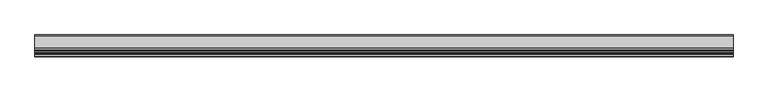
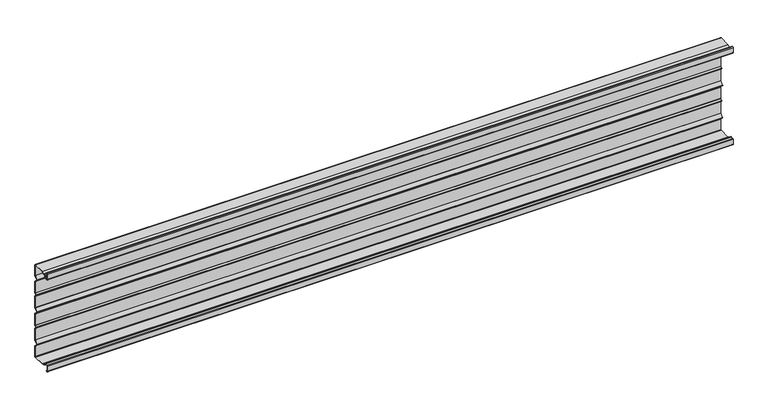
"""IFC4 building model written with IfcOpenShell, lengths in millimetres: plate geometry, HIANSA - H20.F09.007-CHAPA PERFILADA FACHADA HORIZONTAL - BANDEJA 130.600 - Panel de Muro Cortina : -."""

from ifc_helpers import new_model, si_unit, point, frame, frame_2d, origin, place, context, project, spatial, polyline, circle_curve, trimmed, segment, composite_curve, outline, extrude, source, transform, mapped, element, save


def plate_02a1e95c(model_context):
    return source(origin(), model_context, "Body", "SweptSolid", [
        extrude(outline(composite_curve([segment(trimmed(circle_curve(frame_2d((-127.2, 581.4957928)), 3.8), [point((-127.2, 577.6957928))], [point((-131.0, 581.4957928))], False, "CARTESIAN"), True, "CONTINUOUS"), segment(polyline([(-131.0, 581.4957928), (-131.0, 613.8462418)]), True, "CONTINUOUS"), segment(trimmed(circle_curve(frame_2d((-127.2, 613.8462418)), 3.8), [point((-131.0, 613.8462418))], [point((-127.2, 617.6462418))], False, "CARTESIAN"), True, "CONTINUOUS"), segment(polyline([(-127.2, 617.6462418), (-120.6028106, 617.6462418), (-120.6028106, 616.6462418), (-127.2, 616.6462418)]), True, "CONTINUOUS"), segment(trimmed(circle_curve(frame_2d((-127.2, 613.8462418)), 2.8), [point((-127.2, 616.6462418))], [point((-130.0, 613.8462418))], True, "CARTESIAN"), True, "CONTINUOUS"), segment(polyline([(-130.0, 613.8462418), (-130.0, 581.4957928)]), True, "CONTINUOUS"), segment(trimmed(circle_curve(frame_2d((-127.2, 581.4957928)), 2.8), [point((-130.0, 581.4957928))], [point((-127.2, 578.6957928))], True, "CARTESIAN"), True, "CONTINUOUS"), segment(polyline([(-127.2, 578.6957928), (-113.8299892, 578.6957928), (-111.7315524, 578.7100756), (-110.1843731, 579.0674137), (-109.0433326, 579.6974759), (-106.8935432, 581.6835432), (-105.5433173, 583.8042996), (-104.0832351, 587.3224219), (-103.519064, 589.0988572), (-103.1910564, 590.3244349), (-95.12384, 594.4326294), (-89.7150105, 592.7903866), (-76.198023, 600.4000001), (-4.2, 600.4000001)]), True, "CONTINUOUS"), segment(trimmed(circle_curve(frame_2d((-4.2, 596.2000001)), 4.2), [point((-4.2, 600.4000001))], [point((0.0, 596.2000001))], False, "CARTESIAN"), True, "CONTINUOUS"), segment(polyline([(0.0, 596.2000001), (0.0, 529.8291168)]), True, "CONTINUOUS"), segment(trimmed(circle_curve(frame_2d((-2.2, 529.8291168)), 2.2), [point((0.0, 529.8291168))], [point((-0.597336, 528.3219777))], False, "CARTESIAN"), True, "CONTINUOUS"), segment(polyline([(-0.597336, 528.3219777), (-17.0664263, 510.80905)]), True, "CONTINUOUS"), segment(trimmed(circle_curve(frame_2d((-15.7551558, 509.5759362)), 1.8), [point((-17.0664263, 510.80905))], [point((-17.0664263, 508.3428224))], True, "CARTESIAN"), True, "CONTINUOUS"), segment(polyline([(-17.0664263, 508.3428224), (-0.597336, 490.8298947)]), True, "CONTINUOUS"), segment(trimmed(circle_curve(frame_2d((-2.2, 489.3227556)), 2.2), [point((-0.597336, 490.8298947))], [point((0.0, 489.3227556))], False, "CARTESIAN"), True, "CONTINUOUS"), segment(polyline([(0.0, 489.3227556), (0.0, 415.6373977)]), True, "CONTINUOUS"), segment(trimmed(circle_curve(frame_2d((-2.2, 415.6373977)), 2.2), [point((0.0, 415.6373977))], [point((-0.6213499, 414.1051235))], False, "CARTESIAN"), True, "CONTINUOUS"), segment(polyline([(-0.6213499, 414.1051235), (-8.298262, 406.1958614)]), True, "CONTINUOUS"), segment(trimmed(circle_curve(frame_2d((-7.0066392, 404.9421826)), 1.8), [point((-8.298262, 406.1958614))], [point((-8.298262, 403.6885037))], True, "CARTESIAN"), True, "CONTINUOUS"), segment(polyline([(-8.298262, 403.6885037), (-0.6213499, 395.7792416)]), True, "CONTINUOUS"), segment(trimmed(circle_curve(frame_2d((-2.2, 394.2469674)), 2.2), [point((-0.6213499, 395.7792416))], [point((0.0, 394.2469674))], False, "CARTESIAN"), True, "CONTINUOUS"), segment(polyline([(0.0, 394.2469674), (0.0, 320.5182435)]), True, "CONTINUOUS"), segment(trimmed(circle_curve(frame_2d((-2.2, 320.5182435)), 2.2), [point((0.0, 320.5182435))], [point((-0.6050263, 319.0029684))], False, "CARTESIAN"), True, "CONTINUOUS"), segment(polyline([(-0.6050263, 319.0029684), (-17.2906156, 301.4397706)]), True, "CONTINUOUS"), segment(trimmed(circle_curve(frame_2d((-15.9856371, 300.2)), 1.8), [point((-17.2906156, 301.4397706))], [point((-17.2906156, 298.9602295))], True, "CARTESIAN"), True, "CONTINUOUS"), segment(polyline([(-17.2906156, 298.9602295), (-0.6050262, 281.3970316)]), True, "CONTINUOUS"), segment(trimmed(circle_curve(frame_2d((-2.2, 279.8817565)), 2.2), [point((-0.6050262, 281.3970316))], [point((0.0, 279.8817565))], False, "CARTESIAN"), True, "CONTINUOUS"), segment(polyline([(0.0, 279.8817565), (0.0, 206.1530326)]), True, "CONTINUOUS"), segment(trimmed(circle_curve(frame_2d((-2.2, 206.1530326)), 2.2), [point((0.0, 206.1530326))], [point((-0.6213499, 204.6207585))], False, "CARTESIAN"), True, "CONTINUOUS"), segment(polyline([(-0.6213499, 204.6207585), (-8.298262, 196.7114963)]), True, "CONTINUOUS"), segment(trimmed(circle_curve(frame_2d((-7.0066392, 195.4578175)), 1.8), [point((-8.298262, 196.7114963))], [point((-8.298262, 194.2041387))], True, "CARTESIAN"), True, "CONTINUOUS"), segment(polyline([(-8.298262, 194.2041387), (-0.6213499, 186.2948765)]), True, "CONTINUOUS"), segment(trimmed(circle_curve(frame_2d((-2.2, 184.7626024)), 2.2), [point((-0.6213499, 186.2948765))], [point((0.0, 184.7626024))], False, "CARTESIAN"), True, "CONTINUOUS"), segment(polyline([(0.0, 184.7626024), (0.0, 111.0772444)]), True, "CONTINUOUS"), segment(trimmed(circle_curve(frame_2d((-2.2, 111.0772444)), 2.2), [point((0.0, 111.0772444))], [point((-0.597336, 109.5701054))], False, "CARTESIAN"), True, "CONTINUOUS"), segment(polyline([(-0.597336, 109.5701054), (-17.0664263, 92.0571777)]), True, "CONTINUOUS"), segment(trimmed(circle_curve(frame_2d((-15.7551558, 90.8240639)), 1.8), [point((-17.0664263, 92.0571777))], [point((-17.0664263, 89.5909501))], True, "CARTESIAN"), True, "CONTINUOUS"), segment(polyline([(-17.0664263, 89.5909501), (-0.597336, 72.0780224)]), True, "CONTINUOUS"), segment(trimmed(circle_curve(frame_2d((-2.2, 70.5708833)), 2.2), [point((-0.597336, 72.0780224))], [point((0.0, 70.5708833))], False, "CARTESIAN"), True, "CONTINUOUS"), segment(polyline([(0.0, 70.5708833), (0.0, 4.2)]), True, "CONTINUOUS"), segment(trimmed(circle_curve(frame_2d((-4.2, 4.2)), 4.2), [point((0.0, 4.2))], [point((-4.2, 0.0))], False, "CARTESIAN"), True, "CONTINUOUS"), segment(polyline([(-4.2, 0.0), (-76.198023, 0.0), (-89.7150105, 7.6096135), (-95.12384, 5.9673707), (-103.1910564, 10.0755652), (-103.519064, 11.3011429), (-104.0832351, 13.0775782), (-105.5433173, 16.5957005), (-106.8935432, 18.7164568), (-109.0433326, 20.7025242), (-110.1843731, 21.3325863), (-111.7315524, 21.6899245), (-113.8299892, 21.7042072), (-127.2, 21.7042072)]), True, "CONTINUOUS"), segment(trimmed(circle_curve(frame_2d((-127.2, 18.9042072)), 2.8), [point((-127.2, 21.7042072))], [point((-130.0, 18.9042072))], True, "CARTESIAN"), True, "CONTINUOUS"), segment(polyline([(-130.0, 18.9042072), (-130.0, -14.5998771)]), True, "CONTINUOUS"), segment(trimmed(circle_curve(frame_2d((-127.2, -14.5998771)), 2.8), [point((-130.0, -14.5998771))], [point((-127.2, -17.3998771))], True, "CARTESIAN"), True, "CONTINUOUS"), segment(polyline([(-127.2, -17.3998771), (-120.6028106, -17.3998771), (-120.6028106, -18.3998771), (-127.2, -18.3998771)]), True, "CONTINUOUS"), segment(trimmed(circle_curve(frame_2d((-127.2, -14.5998771)), 3.8), [point((-127.2, -18.3998771))], [point((-131.0, -14.5998771))], False, "CARTESIAN"), True, "CONTINUOUS"), segment(polyline([(-131.0, -14.5998771), (-131.0, 18.9042072)]), True, "CONTINUOUS"), segment(trimmed(circle_curve(frame_2d((-127.2, 18.9042072)), 3.8), [point((-131.0, 18.9042072))], [point((-127.2, 22.7042072))], False, "CARTESIAN"), True, "CONTINUOUS"), segment(polyline([(-127.2, 22.7042072), (-113.826586, 22.7042072), (-111.6142146, 22.689149), (-109.8232529, 22.2755066), (-108.4538074, 21.5193234), (-106.1196712, 19.3629486), (-104.6530492, 17.0593725), (-103.1431498, 13.4212139), (-102.2915341, 10.7396866), (-95.0289638, 7.0412546), (-89.5967319, 8.6906029), (-75.9358826, 1.0), (-4.2, 1.0)]), True, "CONTINUOUS"), segment(trimmed(circle_curve(frame_2d((-4.2, 4.2)), 3.2), [point((-4.2, 1.0))], [point((-1.0, 4.2))], True, "CARTESIAN"), True, "CONTINUOUS"), segment(polyline([(-1.0, 4.2), (-1.0, 70.5708833)]), True, "CONTINUOUS"), segment(trimmed(circle_curve(frame_2d((-2.2, 70.5708833)), 1.2), [point((-1.0, 70.5708833))], [point((-1.3258197, 71.3929592))], True, "CARTESIAN"), True, "CONTINUOUS"), segment(polyline([(-1.3258197, 71.3929592), (-17.7949099, 88.9058869)]), True, "CONTINUOUS"), segment(trimmed(circle_curve(frame_2d((-15.7551558, 90.8240639)), 2.8), [point((-17.7949099, 88.9058869))], [point((-17.7949099, 92.7422409))], False, "CARTESIAN"), True, "CONTINUOUS"), segment(polyline([(-17.7949099, 92.7422409), (-1.3258197, 110.2551686)]), True, "CONTINUOUS"), segment(trimmed(circle_curve(frame_2d((-2.2, 111.0772444)), 1.2), [point((-1.3258197, 110.2551686))], [point((-1.0, 111.0772444))], True, "CARTESIAN"), True, "CONTINUOUS"), segment(polyline([(-1.0, 111.0772444), (-1.0, 184.7626024)]), True, "CONTINUOUS"), segment(trimmed(circle_curve(frame_2d((-2.2, 184.7626024)), 1.2), [point((-1.0, 184.7626024))], [point((-1.3389181, 185.5983883))], True, "CARTESIAN"), True, "CONTINUOUS"), segment(polyline([(-1.3389181, 185.5983883), (-9.0158302, 193.5076504)]), True, "CONTINUOUS"), segment(trimmed(circle_curve(frame_2d((-7.0066392, 195.4578175)), 2.8), [point((-9.0158302, 193.5076504))], [point((-9.0158302, 197.4079846))], False, "CARTESIAN"), True, "CONTINUOUS"), segment(polyline([(-9.0158302, 197.4079846), (-1.3389181, 205.3172467)]), True, "CONTINUOUS"), segment(trimmed(circle_curve(frame_2d((-2.2, 206.1530326)), 1.2), [point((-1.3389181, 205.3172467))], [point((-1.0, 206.1530326))], True, "CARTESIAN"), True, "CONTINUOUS"), segment(polyline([(-1.0, 206.1530326), (-1.0, 279.8817565)]), True, "CONTINUOUS"), segment(trimmed(circle_curve(frame_2d((-2.2, 279.8817565)), 1.2), [point((-1.0, 279.8817565))], [point((-1.3300143, 280.7082702))], True, "CARTESIAN"), True, "CONTINUOUS"), segment(polyline([(-1.3300143, 280.7082702), (-18.0156037, 298.271468)]), True, "CONTINUOUS"), segment(trimmed(circle_curve(frame_2d((-15.9856371, 300.2)), 2.8), [point((-18.0156037, 298.271468))], [point((-18.0156037, 302.128532))], False, "CARTESIAN"), True, "CONTINUOUS"), segment(polyline([(-18.0156037, 302.128532), (-1.3300143, 319.6917298)]), True, "CONTINUOUS"), segment(trimmed(circle_curve(frame_2d((-2.2, 320.5182435)), 1.2), [point((-1.3300143, 319.6917298))], [point((-1.0, 320.5182435))], True, "CARTESIAN"), True, "CONTINUOUS"), segment(polyline([(-1.0, 320.5182435), (-1.0, 394.2469674)]), True, "CONTINUOUS"), segment(trimmed(circle_curve(frame_2d((-2.2, 394.2469674)), 1.2), [point((-1.0, 394.2469674))], [point((-1.3389181, 395.0827533))], True, "CARTESIAN"), True, "CONTINUOUS"), segment(polyline([(-1.3389181, 395.0827533), (-9.0158302, 402.9920155)]), True, "CONTINUOUS"), segment(trimmed(circle_curve(frame_2d((-7.0066392, 404.9421826)), 2.8), [point((-9.0158302, 402.9920155))], [point((-9.0158302, 406.8923496))], False, "CARTESIAN"), True, "CONTINUOUS"), segment(polyline([(-9.0158302, 406.8923496), (-1.3389181, 414.8016118)]), True, "CONTINUOUS"), segment(trimmed(circle_curve(frame_2d((-2.2, 415.6373977)), 1.2), [point((-1.3389181, 414.8016118))], [point((-1.0, 415.6373977))], True, "CARTESIAN"), True, "CONTINUOUS"), segment(polyline([(-1.0, 415.6373977), (-1.0, 489.3227556)]), True, "CONTINUOUS"), segment(trimmed(circle_curve(frame_2d((-2.2, 489.3227556)), 1.2), [point((-1.0, 489.3227556))], [point((-1.3258197, 490.1448315))], True, "CARTESIAN"), True, "CONTINUOUS"), segment(polyline([(-1.3258197, 490.1448315), (-17.7949099, 507.6577592)]), True, "CONTINUOUS"), segment(trimmed(circle_curve(frame_2d((-15.7551558, 509.5759362)), 2.8), [point((-17.7949099, 507.6577592))], [point((-17.7949099, 511.4941132))], False, "CARTESIAN"), True, "CONTINUOUS"), segment(polyline([(-17.7949099, 511.4941132), (-1.3258197, 529.0070409)]), True, "CONTINUOUS"), segment(trimmed(circle_curve(frame_2d((-2.2, 529.8291168)), 1.2), [point((-1.3258197, 529.0070409))], [point((-1.0, 529.8291168))], True, "CARTESIAN"), True, "CONTINUOUS"), segment(polyline([(-1.0, 529.8291168), (-1.0, 596.2000001)]), True, "CONTINUOUS"), segment(trimmed(circle_curve(frame_2d((-4.2, 596.2000001)), 3.2), [point((-1.0, 596.2000001))], [point((-4.2, 599.4000001))], True, "CARTESIAN"), True, "CONTINUOUS"), segment(polyline([(-4.2, 599.4000001), (-75.9358826, 599.4000001), (-89.5967319, 591.7093972), (-95.0289638, 593.3587454), (-102.2915341, 589.6603135), (-103.1431498, 586.9787862), (-104.6530492, 583.3406276), (-106.1196712, 581.0370515), (-108.4538074, 578.8806767), (-109.8232529, 578.1244934), (-111.6142146, 577.7108511), (-113.826586, 577.6957928), (-127.2, 577.6957928)]), True, "CONTINUOUS")], self_intersect=False)), frame((-2103.5, 0.0, 0.0), z_axis=(1.0, 0.0, 0.0), x_axis=(0.0, 1.0, 0.0)), (0.0, 0.0, 1.0), 4207.0),
    ])


if __name__ == "__main__":
    model = new_model("IFC4")
    model_context = context("Model", 3, world=origin())
    ifc_project = project(units=[si_unit("LENGTHUNIT", "METRE", prefix="MILLI")], contexts=[model_context])
    site = spatial("IfcSite", under=ifc_project)
    building = spatial("IfcBuilding", under=site)
    placement = place(None, origin())
    plate_shape = plate_02a1e95c(model_context)
    element("IfcPlate", 1, ObjectType="HIANSA - H20.F09.007-CHAPA PERFILADA FACHADA HORIZONTAL - BANDEJA 130.600 - Panel de Muro Cortina : -", at=placement, inside=building, context=model_context, shape_type="MappedRepresentation", body=[
        mapped(plate_shape, transform((0.0, 0.0, 0.0), x_axis=(1.0, 0.0, 0.0), y_axis=(0.0, 1.0, 0.0), z_axis=(0.0, 0.0, 1.0))),
    ])
    save(model, "model.ifc")
